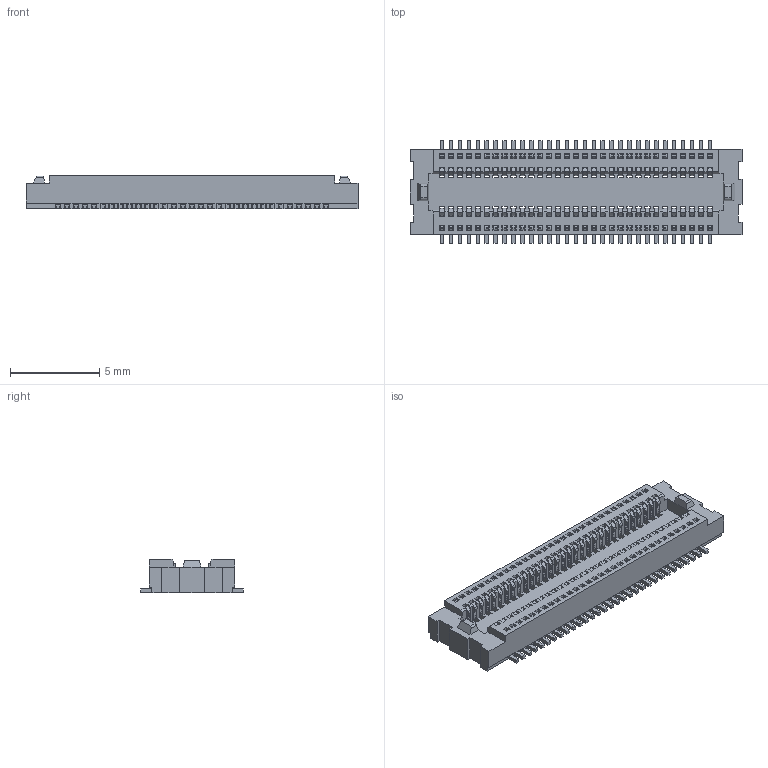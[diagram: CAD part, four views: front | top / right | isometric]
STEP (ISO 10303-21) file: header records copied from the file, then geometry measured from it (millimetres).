
FILE_DESCRIPTION(('CATIA V5 STEP Exchange'),'2;1');
FILE_NAME('F:\黄富鸿\板对板\0.5 单槽\无柱\母座\H1.85\HC-PBB05-1-62-F-H1.85-G1-R-06 (BTB0.5 单槽 母座 立贴 编带)-HCTL.stp','2026-01-21T08:07:03+00:00',('none'),('none'),'CATIA Version 5 Release 20 GA (IN-10)','CATIA V5 STEP AP203','none');
FILE_SCHEMA(('CONFIG_CONTROL_DESIGN'));
Products named in the file (1): Part2
Bounding box: 18.6 x 5.76 x 1.85 mm (x, y, z)
Volume: 101.3 mm3; surface area: 802.1 mm2
Topology: 63 solids, 63 shells, 2782 faces, 8522 edges, 5680 vertices
Faces by surface type: plane 1910, cylinder 872
Entity records: 80850 total; most frequent: ORIENTED_EDGE 17044, CARTESIAN_POINT 14507, DIRECTION 8966, EDGE_CURVE 8522, VECTOR 6778, LINE 6778, VERTEX_POINT 5680, EDGE_LOOP 2844
